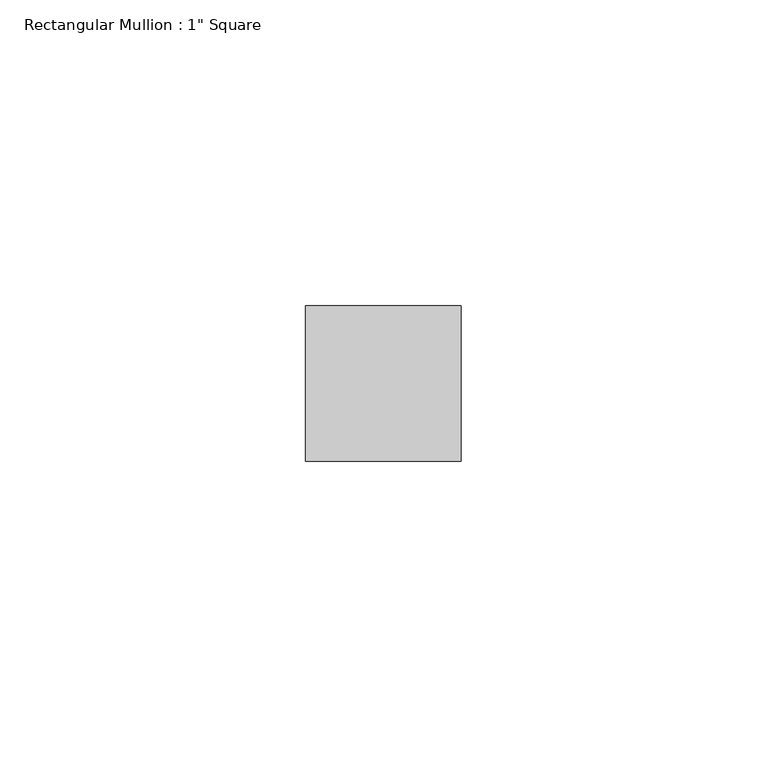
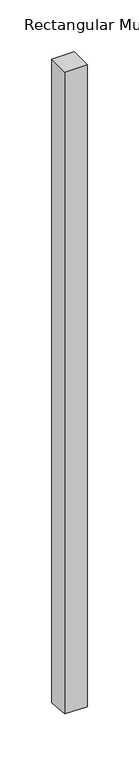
"""IFC4 building model written with IfcOpenShell, lengths in millimetres: member geometry."""

import ifcopenshell
import ifcopenshell.guid

model = None  # the IFC model being written
_history = None  # IfcOwnerHistory: only IFC2X3 demands one
_inside = {}  # id of a spatial element -> (the spatial element, [elements in it])
_under = {}  # id of a project, library or spatial element -> (it, [spatial elements below it])
_declared = {}  # id of a project -> (the project, [libraries it declares])
_typed = {}  # id of a type object -> (the type object, [elements of that type])
_made_of = {}  # id of a material, layer set ... -> (it, [elements and type objects made of it])


def new_model(schema):
    """Start an empty IFC model of exactly this schema.

    Asked for "IFC4X3", IfcOpenShell would pick the latest addendum, in which some entities
    have other attributes; the version numbers below select the first issue.
    IFC2X3 requires an IfcOwnerHistory on every rooted entity: one is made here for all.
    """
    global model, _history
    if schema == "IFC4X3":
        model = ifcopenshell.file(schema_version=(4, 3, 0, 0))
    else:
        model = ifcopenshell.file(schema=schema)
    _inside.clear()
    _under.clear()
    _declared.clear()
    _typed.clear()
    _made_of.clear()
    _history = None
    if model.schema == "IFC2X3":
        org = make("IfcOrganization", Name="unknown")
        user = make(
            "IfcPersonAndOrganization",
            ThePerson=make("IfcPerson", FamilyName="unknown"),
            TheOrganization=org,
        )
        app = make(
            "IfcApplication",
            ApplicationDeveloper=org,
            Version="unknown",
            ApplicationFullName="unknown",
            ApplicationIdentifier="unknown",
        )
        _history = make(
            "IfcOwnerHistory",
            OwningUser=user,
            OwningApplication=app,
            ChangeAction="ADDED",
            CreationDate=0,
        )
    return model


def make(cls, **values):
    """One entity of the class cls with the attributes given. An attribute that is None is left unset."""
    return model.create_entity(
        cls, **{name: value for name, value in values.items() if value is not None}
    )


def rooted(cls, **values):
    """An entity with a GlobalId (a new one), such as an element, a storey or a relation."""
    return make(cls, GlobalId=ifcopenshell.guid.new(), OwnerHistory=_history, **values)


def si_unit(unit_type, name, prefix=None):
    """IfcSIUnit, for example si_unit("LENGTHUNIT", "METRE", prefix="MILLI")."""
    return make("IfcSIUnit", UnitType=unit_type, Prefix=prefix, Name=name)


def assignment(units):
    """IfcUnitAssignment: the units of a project."""
    return None if units is None else make("IfcUnitAssignment", Units=units)


def point(xyz):
    """IfcCartesianPoint."""
    return None if xyz is None else make("IfcCartesianPoint", Coordinates=xyz)


def direction(xyz):
    """IfcDirection."""
    return None if xyz is None else make("IfcDirection", DirectionRatios=xyz)


def frame(location, z_axis=None, x_axis=None):
    """IfcAxis2Placement3D, a coordinate frame: its origin and axes. An axis left out is left unset."""
    return make(
        "IfcAxis2Placement3D",
        Location=point(location),
        Axis=direction(z_axis),
        RefDirection=direction(x_axis),
    )


def origin():
    """The frame at (0, 0, 0) with its axes left unset."""
    return frame((0.0, 0.0, 0.0))


def place(relative_to, where):
    """IfcLocalPlacement: puts the frame where relative to a parent placement (None: the world)."""
    return make(
        "IfcLocalPlacement", PlacementRelTo=relative_to, RelativePlacement=where
    )


def context(
    kind, dimensions, precision=None, world=None, true_north=None, identifier=None
):
    """IfcGeometricRepresentationContext, for example the 3D "Model" context."""
    return make(
        "IfcGeometricRepresentationContext",
        ContextIdentifier=identifier,
        ContextType=kind,
        CoordinateSpaceDimension=dimensions,
        Precision=precision,
        WorldCoordinateSystem=world,
        TrueNorth=true_north,
    )


def project(units=None, contexts=None):
    """IfcProject with its units and contexts."""
    return rooted(
        "IfcProject",
        Name="project",
        RepresentationContexts=contexts,
        UnitsInContext=assignment(units),
    )


def spatial(cls, under=None, at=None, **own):
    """A site, building, storey or space (cls), placed at a placement, below another one or the project."""
    s = rooted(cls, ObjectPlacement=at, **own)
    if under is not None:
        _under.setdefault(under.id(), (under, []))[1].append(s)
    return s


def faces_of(points, faces, orient=None, outer=None):
    """IfcFace entities. A face is a list of loops; a loop is a list of indices into points, from 0.

    orient and outer hold one flag for each loop. By default every Orientation is true, the
    first loop of a face is its IfcFaceOuterBound and the others are IfcFaceBound.
    """
    made = []
    for i, loops in enumerate(faces):
        bounds = []
        for j, loop in enumerate(loops):
            is_outer = j == 0 if outer is None else outer[i][j]
            bounds.append(
                make(
                    "IfcFaceOuterBound" if is_outer else "IfcFaceBound",
                    Bound=make("IfcPolyLoop", Polygon=[points[k] for k in loop]),
                    Orientation=True if orient is None else orient[i][j],
                )
            )
        made.append(make("IfcFace", Bounds=bounds))
    return made


def faceted_brep(points, faces, orient=None, outer=None, voids=None):
    """IfcFacetedBrep: a solid bounded by flat faces; with voids (closed shells), ...WithVoids."""
    shared = [point(p) for p in points]
    hull = make("IfcClosedShell", CfsFaces=faces_of(shared, faces, orient, outer))
    if voids is None:
        return make("IfcFacetedBrep", Outer=hull)
    return make(
        "IfcFacetedBrepWithVoids",
        Outer=hull,
        Voids=[
            make(cls, CfsFaces=faces_of(shared, fs, o, b)) for cls, fs, o, b in voids
        ],
    )


def shape(context_of_items, identifier, shape_type, items):
    """IfcShapeRepresentation: the items that make up one representation, for example the "Body"."""
    return make(
        "IfcShapeRepresentation",
        ContextOfItems=context_of_items,
        RepresentationIdentifier=identifier,
        RepresentationType=shape_type,
        Items=items,
    )


def source(mapping_origin, context_of_items, identifier, shape_type, items):
    """IfcRepresentationMap: a shape defined once, which mapped items show again and again."""
    return make(
        "IfcRepresentationMap",
        MappingOrigin=mapping_origin,
        MappedRepresentation=shape(context_of_items, identifier, shape_type, items),
    )


def transform(
    local_origin,
    x_axis=None,
    y_axis=None,
    z_axis=None,
    scale=None,
    scale2=None,
    scale3=None,
    uniform=True,
):
    """IfcCartesianTransformationOperator3D, or its non-uniform kind. x_axis, y_axis, z_axis: its Axis1, 2, 3."""
    if uniform:
        return make(
            "IfcCartesianTransformationOperator3D",
            Axis1=direction(x_axis),
            Axis2=direction(y_axis),
            LocalOrigin=point(local_origin),
            Scale=scale,
            Axis3=direction(z_axis),
        )
    return make(
        "IfcCartesianTransformationOperator3DnonUniform",
        Axis1=direction(x_axis),
        Axis2=direction(y_axis),
        LocalOrigin=point(local_origin),
        Scale=scale,
        Axis3=direction(z_axis),
        Scale2=scale2,
        Scale3=scale3,
    )


def mapped(mapping_source, mapping_target):
    """IfcMappedItem: shows the shape of a source again, moved by a transform."""
    return make(
        "IfcMappedItem", MappingSource=mapping_source, MappingTarget=mapping_target
    )


def made_of(thing, what):
    """Note that an element or type object is made of a material, layer set ...; save() writes the relation."""
    if what is not None:
        _made_of.setdefault(what.id(), (what, []))[1].append(thing)
    return thing


def element(
    cls,
    number,
    at=None,
    inside=None,
    cuts=None,
    type_object=None,
    material=None,
    context=None,
    identifier="Body",
    shape_type=None,
    held_by="IfcProductDefinitionShape",
    body=None,
    shapes=None,
    **own,
):
    """One element of the class cls, such as IfcWall. Its Tag is "e" and its number.

    at: its placement. inside: the storey or other place that contains it. cuts: it is an
    opening in that element (IfcRelVoidsElement). A single representation is given by context,
    identifier, shape_type and body (its items); several are given by shapes. held_by: the class
    of the entity that holds the representations. save() writes the other relations.
    """
    e = rooted(cls, Tag="e%d" % number, ObjectPlacement=at, **own)
    if body is not None:
        shapes = [shape(context, identifier, shape_type, body)]
    if shapes is not None:
        e.Representation = make(held_by, Representations=shapes)
    if inside is not None:
        _inside.setdefault(inside.id(), (inside, []))[1].append(e)
    if cuts is not None:
        rooted(
            "IfcRelVoidsElement", RelatingBuildingElement=cuts, RelatedOpeningElement=e
        )
    if type_object is not None:
        _typed.setdefault(type_object.id(), (type_object, []))[1].append(e)
    return made_of(e, material)


def aggregate(whole, parts):
    """IfcRelAggregates: a whole, such as a stair, and the parts it consists of."""
    return rooted("IfcRelAggregates", RelatingObject=whole, RelatedObjects=parts)


def save(model, path):
    """Write the relations noted so far, then the file.

    IfcRelAggregates (storeys below a building ...), IfcRelContainedInSpatialStructure (elements
    in a storey), IfcRelDefinesByType, IfcRelAssociatesMaterial and IfcRelDeclares: one each for
    every whole, place, type object, material and project.
    """
    for whole, parts in _under.values():
        aggregate(whole, parts)
    for where, things in _inside.values():
        rooted(
            "IfcRelContainedInSpatialStructure",
            RelatedElements=things,
            RelatingStructure=where,
        )
    for kind, things in _typed.values():
        rooted("IfcRelDefinesByType", RelatedObjects=things, RelatingType=kind)
    for what, things in _made_of.values():
        rooted("IfcRelAssociatesMaterial", RelatedObjects=things, RelatingMaterial=what)
    for by, libraries in _declared.values():
        rooted("IfcRelDeclares", RelatingContext=by, RelatedDefinitions=libraries)
    model.write(path)


def member_51c93bb0(model_context):
    return source(origin(), model_context, "Body", "Brep", [
        faceted_brep([(0.0, 12.7, 0.0), (-25.4, 12.7, 0.0), (-25.4, -12.7, 0.0), (0.0, -12.7, 0.0), (0.0, 12.7, -763.0512388), (-25.4, 12.7, -762.7492513), (-25.4, -12.7, -760.6467737), (0.0, -12.7, -760.9487612)], [[[0, 1, 2, 3]], [[1, 0, 4, 5]], [[2, 1, 5, 6]], [[3, 2, 6, 7]], [[0, 3, 7, 4]], [[4, 7, 6, 5]]]),
    ])


if __name__ == "__main__":
    model = new_model("IFC4")
    model_context = context("Model", 3, world=origin())
    ifc_project = project(units=[si_unit("LENGTHUNIT", "METRE", prefix="MILLI")], contexts=[model_context])
    site = spatial("IfcSite", under=ifc_project)
    building = spatial("IfcBuilding", under=site)
    placement = place(None, origin())
    member_shape = member_51c93bb0(model_context)
    element("IfcMember", 1, ObjectType="Rectangular Mullion : 1\" Square", at=placement, inside=building, context=model_context, shape_type="MappedRepresentation", body=[
        mapped(member_shape, transform((0.0, 0.0, 0.0), x_axis=(1.0, 0.0, 0.0), y_axis=(0.0, 1.0, 0.0), z_axis=(0.0, 0.0, 1.0))),
    ])
    save(model, "model.ifc")
